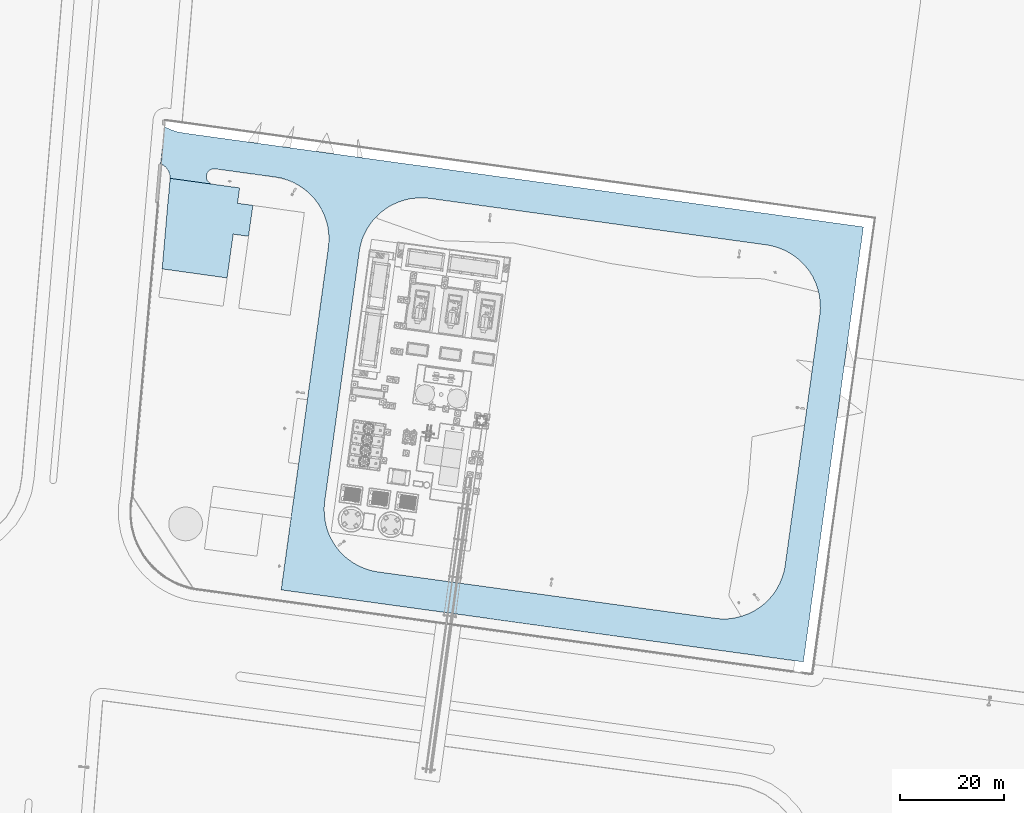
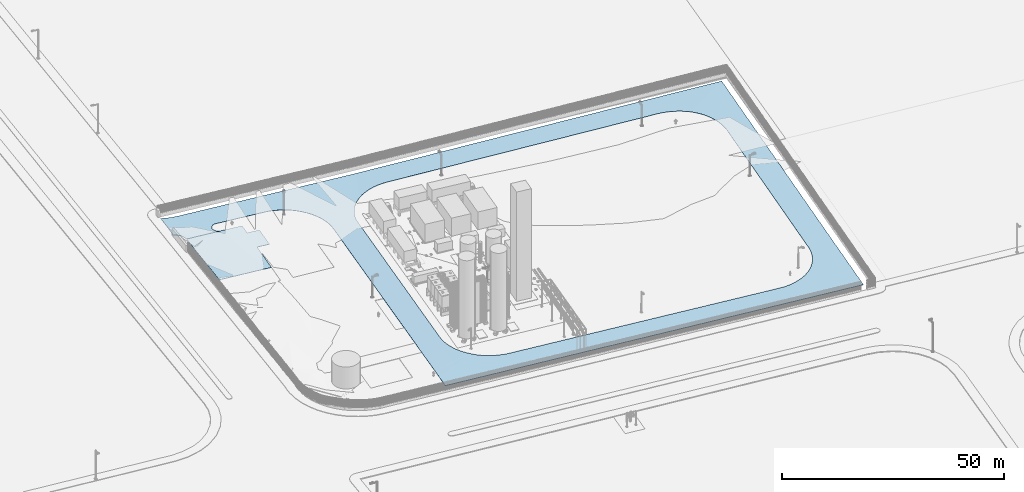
# Not in any storey, part 18 of 75: 2 slabs.
"""IFC4 model written with IfcOpenShell, lengths in metres."""

from ifc_helpers import new_model, si_unit, direction, origin_with_axes, place, context, subcontext, project, spatial, triangles, element, save


model = new_model("IFC4")

# Units and contexts
model_context = context("Model", 3, precision=1e-05, world=origin_with_axes(), true_north=direction((0.0, 1.0)))
body_context = subcontext(model_context, "Body", "Model", "MODEL_VIEW")
ifc_project = project(units=[si_unit("AREAUNIT", "SQUARE_METRE"), si_unit("VOLUMEUNIT", "CUBIC_METRE"), si_unit("LENGTHUNIT", "METRE")], contexts=[model_context])

# Site
site_placement = place(None, origin_with_axes())
site = spatial("IfcSite", under=ifc_project, at=site_placement, Name="Parcela industrial Jinhong")

# Slabs
slab_1_placement = place(site_placement, origin_with_axes())
element("IfcSlab", 1, at=slab_1_placement, inside=site, Name="Vial interior 01", ObjectType="Viales", PredefinedType="USERDEFINED", context=body_context, shape_type="Tessellation", body=[
    triangles([(1.718035, 107.487565, 0.60177), (0.356926, 107.079863, 0.6), (0.424991, 107.487947, 0.6), (0.493012, 108.03147, 0.594078), (82.84449, 96.008636, 1.718905), (91.049611, 88.800624, 1.93995), (73.210156, 97.3371, 1.50734), (51.491278, 94.284703, 1.071071), (67.048363, 98.188665, 1.372017), (69.6697, 97.813999, 1.429669), (134.999289, 88.78727, 2.857952), (116.344314, 85.32608, 2.495319), (95.440682, 94.271401, 1.995514), (123.016231, 82.095684, 2.657368), (134.523038, 85.320658, 2.814564), (134.488994, 85.082606, 2.811571), (134.420934, 84.70864, 2.806722), (124.651426, 80.190698, 2.657434), (134.284889, 83.62119, 2.793247), (134.182815, 82.90745, 2.784273), (125.297608, 79.104138, 2.651899), (134.08077, 82.091807, 2.774166), (133.808602, 80.18856, 2.750237), (126.217451, 76.791593, 2.635501), (133.502436, 77.9794, 2.722561), (133.162243, 75.566424, 2.692273), (119.958453, 23.806432, 1.982694), (125.677922, 21.357511, 2.013433), (119.754409, 22.583527, 1.967023), (119.37972, 21.358775, 1.949602), (125.541833, 20.201705, 1.999198), (125.371766, 19.080385, 1.985001), (118.324402, 19.081797, 1.913577), (125.235667, 18.026707, 1.971901), (125.09959, 17.075055, 1.959936), (117.609551, 18.028466, 1.894614), (124.793438, 14.764162, 1.931129), (124.691452, 14.220749, 1.92405), (124.657247, 13.811897, 1.919156), (124.589353, 13.506408, 1.91507), (108.96284, 13.341192, 1.754825), (123.432604, 5.043701, 1.809212), (107.670673, 13.307636, 1.741353), (33.999621, 26.517017, 1.141473), (23.412128, 22.611692, 0.963657), (23.446208, 22.986012, 0.962234), (34.850913, 25.59906, 1.139892), (22.901896, 18.907454, 0.87741), (23.514236, 23.461742, 0.961832), (32.603518, 28.590706, 1.115598), (23.820415, 25.602926, 0.960022), (24.092565, 27.506035, 0.958415), (31.377477, 32.125794, 1.066039), (24.534822, 30.904876, 0.951371), (31.207116, 33.383285, 1.053999), (25.045089, 34.643267, 0.938447), (31.172921, 34.642132, 1.044814), (25.249259, 35.90101, 0.934444), (63.243633, 13.321091, 1.266382), (106.410063, 13.443986, 1.730091), (48.972356, 94.353504, 1.017629), (51.728639, 100.300604, 1.035607), (50.23198, 94.38704, 1.043897), (46.860394, 100.947869, 0.928864), (48.188912, 94.251786, 1.001836), (47.745218, 94.217668, 0.992733), (43.083768, 92.35073, 0.907248), (42.91193, 92.179825, 0.904783), (42.094934, 91.568232, 0.891712), (32.087084, 86.473558, 0.758918), (38.180978, 85.282054, 0.851666), (32.087125, 86.133929, 0.760585), (31.27492, 35.899375, 1.038505), (30.929056, 91.572134, 0.721607), (40.42787, 89.870234, 0.868069), (31.20148, 91.061994, 0.727003), (41.176482, 90.719381, 0.878104), (30.01029, 93.270865, 0.703518), (30.180156, 92.99949, 0.706653), (29.805412, 93.509756, 0.701243), (29.499206, 93.91742, 0.700428), (29.294998, 94.222779, 0.699919), (29.226741, 94.257534, 0.69968), (29.157788, 94.360343, 0.699508), (8.902668, 99.531686, 0.623371), (8.766312, 99.294006, 0.622581), (8.630414, 99.123965, 0.621861), (8.528063, 98.716268, 0.621034), (8.494419, 98.676811, 0.620859), (9.343537, 97.119825, 0.622684), (9.82159, 96.98251, 0.624465), (6.928161, 97.391208, 0.6045), (1.515253, 98.140608, 0.564139), (1.480516, 98.720251, 0.566094), (1.345046, 99.125948, 0.566575), (1.310377, 99.297415, 0.566959), (1.208682, 99.534188, 0.567058), (1.038483, 99.806172, 0.566746), (1.036684, 99.842445, 0.566872), (0.222455, 100.689183, 0.563628), (-0.323346, 100.962197, 0.6), (0.356859, 106.841251, 0.6), (94.623541, 94.373622, 1.97764), (123.868208, 81.176927, 2.660465), (134.352954, 84.233239, 2.800745), (125.808883, 77.981252, 2.644592), (133.63848, 79.100836, 2.736414), (126.592231, 71.829362, 2.584104), (124.963484, 16.191234, 1.948726), (124.861454, 15.409834, 1.939), (23.616312, 24.073579, 0.961633), (23.718343, 24.787065, 0.96103), (31.650044, 30.902009, 1.080001), (31.883053, 84.060159, 0.768592), (45.328754, 93.50469, 0.946704), (46.521168, 93.912509, 0.969041), (8.970463, 97.391018, 0.620817), (2.977459, 107.07932, 0.607253), (88.802204, 95.157109, 1.849936), (117.570208, 85.087653, 2.522706), (118.903192, 20.203365, 1.93192), (116.792651, 17.077147, 1.875752), (40.296936, 22.607073, 1.161819), (41.522821, 22.368654, 1.171594), (24.398717, 29.715035, 0.955763), (37.942726, 84.058228, 0.854885), (8.665626, 97.762974, 0.619814), (0.663913, 100.316063, 0.565718), (4.306186, 106.840707, 0.61235), (62.460315, 13.457336, 1.25967), (32.058222, 29.713616, 1.096578), (31.985089, 84.875676, 0.765675), (8.528311, 98.1385, 0.620164), (24.228629, 28.593607, 0.957072), (38.078954, 84.874538, 0.852261), (65.346004, 98.393146, 1.334838), (33.249835, 27.503915, 1.1365), (38.521463, 86.471914, 0.850826), (32.052987, 87.390396, 0.754057), (9.276441, 99.803246, 0.62515), (32.018886, 87.629089, 0.752524), (9.720628, 99.973413, 0.627109), (38.895334, 87.388212, 0.852527), (10.196867, 99.973212, 0.629023), (35.803162, 24.783942, 1.140478), (31.916595, 88.648619, 0.746436), (21.668577, 98.406414, 0.673533), (36.858671, 24.069699, 1.143234), (39.03183, 87.626911, 0.853793), (22.895081, 98.20185, 0.678254), (37.947885, 23.457649, 1.147467), (31.882553, 88.750885, 0.745573), (39.105553, 22.981302, 1.153904), (39.576704, 88.6468, 0.858394), (31.644345, 89.769795, 0.738045), (66.851579, 18.8941, 1.389705), (31.303756, 90.721955, 0.729757), (30.656356, 92.184431, 0.715708), (110.22241, 13.510689, 1.769479), (41.516886, 91.059132, 0.882978), (111.448098, 13.816181, 1.785302), (112.640664, 14.224083, 1.801928), (113.796874, 14.766979, 1.819687), (114.853254, 15.413105, 1.837583), (124.589243, 13.302064, 1.912796), (115.873434, 16.19372, 1.856607), (28.375211, 95.175776, 0.697194), (27.421607, 96.025906, 0.694228), (44.172436, 92.995704, 0.925807), (26.367277, 96.739258, 0.690718), (25.278064, 97.351291, 0.686964), (132.822048, 73.051394, 2.660849), (24.119379, 97.827999, 0.682793), (126.694266, 73.053895, 2.598759), (126.660071, 74.311292, 2.612399), (126.523908, 75.567597, 2.624992), (118.761591, 84.713424, 2.55028), (119.919204, 84.237123, 2.57783), (121.041533, 83.625624, 2.605547), (122.063921, 82.910853, 2.631857), (1.718035, 107.487565, 0.70177), (0.356926, 107.079863, 0.7), (0.424991, 107.487947, 0.7), (0.493012, 108.03147, 0.694078), (82.84449, 96.008636, 1.818905), (91.049611, 88.800624, 2.03995), (73.210156, 97.3371, 1.60734), (51.491278, 94.284703, 1.171071), (67.048363, 98.188665, 1.472017), (69.6697, 97.813999, 1.529669), (134.999289, 88.78727, 2.957952), (116.344314, 85.32608, 2.595319), (95.440682, 94.271401, 2.095514), (123.016231, 82.095684, 2.757368), (134.523038, 85.320658, 2.914564), (134.488994, 85.082606, 2.911571), (134.420934, 84.70864, 2.906722), (124.651426, 80.190698, 2.757434), (134.284889, 83.62119, 2.893247), (134.182815, 82.90745, 2.884273), (125.297608, 79.104138, 2.751899), (134.08077, 82.091807, 2.874166), (133.808602, 80.18856, 2.850237), (126.217451, 76.791593, 2.735501), (133.502436, 77.9794, 2.822561), (133.162243, 75.566424, 2.792273), (119.958453, 23.806432, 2.082694), (125.677922, 21.357511, 2.113433), (119.754409, 22.583527, 2.067023), (119.37972, 21.358775, 2.049602), (125.541833, 20.201705, 2.099198), (125.371766, 19.080385, 2.085001), (118.324402, 19.081797, 2.013577), (125.235667, 18.026707, 2.071901), (125.09959, 17.075055, 2.059936), (117.609551, 18.028466, 1.994614), (124.793438, 14.764162, 2.031129), (124.691452, 14.220749, 2.02405), (124.657247, 13.811897, 2.019156), (124.589353, 13.506408, 2.01507), (108.96284, 13.341192, 1.854825), (123.432604, 5.043701, 1.909212), (107.670673, 13.307636, 1.841353), (33.999621, 26.517017, 1.241473), (23.412128, 22.611692, 1.063657), (23.446208, 22.986012, 1.062234), (34.850913, 25.59906, 1.239892), (22.901896, 18.907454, 0.97741), (23.514236, 23.461742, 1.061832), (32.603518, 28.590706, 1.215598), (23.820415, 25.602926, 1.060022), (24.092565, 27.506035, 1.058415), (31.377477, 32.125794, 1.166039), (24.534822, 30.904876, 1.051371), (31.207116, 33.383285, 1.153999), (25.045089, 34.643267, 1.038447), (31.172921, 34.642132, 1.144814), (25.249259, 35.90101, 1.034444), (63.243633, 13.321091, 1.366382), (106.410063, 13.443986, 1.830091), (48.972356, 94.353504, 1.117629), (51.728639, 100.300604, 1.135607), (50.23198, 94.38704, 1.143897), (46.860394, 100.947869, 1.028864), (48.188912, 94.251786, 1.101836), (47.745218, 94.217668, 1.092733), (43.083768, 92.35073, 1.007248), (42.91193, 92.179825, 1.004783), (42.094934, 91.568232, 0.991712), (32.087084, 86.473558, 0.858918), (38.180978, 85.282054, 0.951666), (32.087125, 86.133929, 0.860585), (31.27492, 35.899375, 1.138505), (30.929056, 91.572134, 0.821607), (40.42787, 89.870234, 0.968069), (31.20148, 91.061994, 0.827003), (41.176482, 90.719381, 0.978104), (30.01029, 93.270865, 0.803518), (30.180156, 92.99949, 0.806653), (29.805412, 93.509756, 0.801243), (29.499206, 93.91742, 0.800428), (29.294998, 94.222779, 0.799919), (29.226741, 94.257534, 0.79968), (29.157788, 94.360343, 0.799508), (8.902668, 99.531686, 0.723371), (8.766312, 99.294006, 0.722581), (8.630414, 99.123965, 0.721861), (8.528063, 98.716268, 0.721034), (8.494419, 98.676811, 0.720859), (9.343537, 97.119825, 0.722684), (9.82159, 96.98251, 0.724465), (6.928161, 97.391208, 0.7045), (1.515253, 98.140608, 0.664139), (1.480516, 98.720251, 0.666094), (1.345046, 99.125948, 0.666575), (1.310377, 99.297415, 0.666959), (1.208682, 99.534188, 0.667058), (1.038483, 99.806172, 0.666746), (1.036684, 99.842445, 0.666872), (0.222455, 100.689183, 0.663628), (-0.323346, 100.962197, 0.7), (0.356859, 106.841251, 0.7), (94.623541, 94.373622, 2.07764), (123.868208, 81.176927, 2.760465), (134.352954, 84.233239, 2.900745), (125.808883, 77.981252, 2.744592), (133.63848, 79.100836, 2.836414), (126.592231, 71.829362, 2.684104), (124.963484, 16.191234, 2.048726), (124.861454, 15.409834, 2.039), (23.616312, 24.073579, 1.061633), (23.718343, 24.787065, 1.06103), (31.650044, 30.902009, 1.180001), (31.883053, 84.060159, 0.868592), (45.328754, 93.50469, 1.046704), (46.521168, 93.912509, 1.069041), (8.970463, 97.391018, 0.720817), (2.977459, 107.07932, 0.707253), (88.802204, 95.157109, 1.949936), (117.570208, 85.087653, 2.622706), (118.903192, 20.203365, 2.03192), (116.792651, 17.077147, 1.975752), (40.296936, 22.607073, 1.261819), (41.522821, 22.368654, 1.271594), (24.398717, 29.715035, 1.055763), (37.942726, 84.058228, 0.954885), (8.665626, 97.762974, 0.719814), (0.663913, 100.316063, 0.665718), (4.306186, 106.840707, 0.71235), (62.460315, 13.457336, 1.35967), (32.058222, 29.713616, 1.196578), (31.985089, 84.875676, 0.865675), (8.528311, 98.1385, 0.720164), (24.228629, 28.593607, 1.057072), (38.078954, 84.874538, 0.952261), (65.346004, 98.393146, 1.434838), (33.249835, 27.503915, 1.2365), (38.521463, 86.471914, 0.950826), (32.052987, 87.390396, 0.854057), (9.276441, 99.803246, 0.72515), (32.018886, 87.629089, 0.852524), (9.720628, 99.973413, 0.727109), (38.895334, 87.388212, 0.952527), (10.196867, 99.973212, 0.729023), (35.803162, 24.783942, 1.240478), (31.916595, 88.648619, 0.846436), (21.668577, 98.406414, 0.773533), (36.858671, 24.069699, 1.243234), (39.03183, 87.626911, 0.953793), (22.895081, 98.20185, 0.778254), (37.947885, 23.457649, 1.247467), (31.882553, 88.750885, 0.845573), (39.105553, 22.981302, 1.253904), (39.576704, 88.6468, 0.958394), (31.644345, 89.769795, 0.838045), (66.851579, 18.8941, 1.489705), (31.303756, 90.721955, 0.829757), (30.656356, 92.184431, 0.815708), (110.22241, 13.510689, 1.869479), (41.516886, 91.059132, 0.982978), (111.448098, 13.816181, 1.885302), (112.640664, 14.224083, 1.901928), (113.796874, 14.766979, 1.919687), (114.853254, 15.413105, 1.937583), (124.589243, 13.302064, 2.012796), (115.873434, 16.19372, 1.956607), (28.375211, 95.175776, 0.797194), (27.421607, 96.025906, 0.794228), (44.172436, 92.995704, 1.025807), (26.367277, 96.739258, 0.790718), (25.278064, 97.351291, 0.786964), (132.822048, 73.051394, 2.760849), (24.119379, 97.827999, 0.782793), (126.694266, 73.053895, 2.698759), (126.660071, 74.311292, 2.712399), (126.523908, 75.567597, 2.724992), (118.761591, 84.713424, 2.65028), (119.919204, 84.237123, 2.67783), (121.041533, 83.625624, 2.705547), (122.063921, 82.910853, 2.731857)], [[1, 2, 3], [3, 4, 1], [5, 6, 7], [8, 9, 10], [11, 12, 13], [14, 11, 15], [14, 16, 17], [18, 19, 20], [21, 22, 23], [24, 25, 26], [27, 28, 29], [30, 31, 32], [33, 34, 35], [36, 37, 38], [38, 39, 40], [41, 42, 43], [44, 45, 46], [47, 48, 45], [44, 46, 49], [50, 51, 52], [53, 54, 55], [55, 56, 57], [56, 58, 57], [59, 60, 42], [61, 62, 63], [64, 65, 66], [67, 68, 69], [70, 71, 72], [73, 57, 58], [74, 75, 76], [75, 74, 77], [78, 69, 79], [69, 78, 67], [78, 80, 81], [82, 83, 84], [85, 86, 87], [87, 88, 89], [90, 91, 92], [92, 93, 94], [94, 95, 96], [97, 98, 99], [100, 101, 102], [2, 1, 102], [13, 6, 103], [16, 14, 15], [104, 17, 105], [106, 23, 107], [108, 28, 27], [33, 35, 109], [36, 110, 37], [44, 111, 112], [44, 49, 111], [113, 54, 53], [56, 55, 54], [114, 73, 58], [78, 81, 82], [115, 64, 116], [117, 90, 92], [92, 94, 96], [118, 100, 102], [102, 1, 118], [103, 6, 119], [11, 120, 12], [22, 21, 18], [34, 121, 32], [122, 38, 40], [48, 123, 124], [54, 113, 125], [73, 114, 126], [127, 117, 92], [87, 96, 97], [100, 118, 128], [128, 118, 129], [119, 6, 5], [36, 109, 110], [48, 124, 130], [131, 125, 113], [132, 126, 114], [133, 127, 92], [85, 99, 129], [128, 129, 99], [8, 7, 6], [30, 32, 121], [125, 131, 134], [126, 132, 135], [89, 133, 92], [99, 85, 97], [7, 8, 10], [134, 131, 52], [72, 135, 132], [87, 89, 92], [9, 8, 136], [50, 52, 131], [135, 72, 71], [96, 87, 92], [51, 50, 137], [71, 70, 138], [87, 97, 85], [51, 137, 112], [139, 138, 70], [140, 85, 129], [112, 137, 44], [141, 138, 139], [142, 140, 129], [45, 44, 47], [138, 141, 143], [144, 142, 129], [48, 47, 145], [146, 143, 141], [147, 144, 129], [48, 145, 148], [143, 146, 149], [150, 147, 129], [48, 148, 151], [152, 149, 146], [64, 150, 129], [48, 151, 153], [149, 152, 154], [62, 61, 64], [48, 153, 123], [155, 154, 152], [156, 130, 124], [157, 154, 155], [130, 156, 59], [154, 157, 75], [60, 59, 156], [76, 75, 157], [42, 60, 43], [158, 77, 74], [159, 42, 41], [77, 158, 160], [161, 42, 159], [79, 160, 158], [162, 42, 161], [160, 79, 69], [163, 42, 162], [82, 67, 78], [164, 42, 163], [64, 82, 84], [42, 164, 165], [82, 64, 67], [166, 165, 164], [64, 84, 167], [122, 165, 166], [64, 167, 168], [165, 122, 40], [67, 64, 169], [38, 122, 36], [169, 64, 115], [109, 36, 33], [64, 168, 170], [34, 33, 121], [64, 170, 171], [29, 31, 30], [116, 64, 66], [31, 29, 28], [65, 64, 61], [28, 108, 172], [64, 171, 173], [174, 172, 108], [150, 64, 173], [175, 172, 174], [63, 62, 8], [172, 175, 26], [136, 8, 62], [176, 26, 175], [6, 13, 12], [24, 26, 176], [11, 177, 120], [106, 25, 24], [11, 178, 177], [25, 106, 107], [11, 179, 178], [23, 106, 21], [11, 180, 179], [22, 18, 20], [11, 14, 180], [19, 18, 104], [17, 104, 14], [19, 104, 105], [183, 182, 181], [181, 184, 183], [187, 186, 185], [190, 189, 188], [193, 192, 191], [195, 191, 194], [197, 196, 194], [200, 199, 198], [203, 202, 201], [206, 205, 204], [209, 208, 207], [212, 211, 210], [215, 214, 213], [218, 217, 216], [220, 219, 218], [223, 222, 221], [226, 225, 224], [225, 228, 227], [229, 226, 224], [232, 231, 230], [235, 234, 233], [237, 236, 235], [237, 238, 236], [222, 240, 239], [243, 242, 241], [246, 245, 244], [249, 248, 247], [252, 251, 250], [238, 237, 253], [256, 255, 254], [257, 254, 255], [259, 249, 258], [247, 258, 249], [261, 260, 258], [264, 263, 262], [267, 266, 265], [269, 268, 267], [272, 271, 270], [274, 273, 272], [276, 275, 274], [279, 278, 277], [282, 281, 280], [282, 181, 182], [283, 186, 193], [195, 194, 196], [285, 197, 284], [287, 203, 286], [207, 208, 288], [289, 215, 213], [217, 290, 216], [292, 291, 224], [291, 229, 224], [233, 234, 293], [234, 235, 236], [238, 253, 294], [262, 261, 258], [296, 244, 295], [272, 270, 297], [276, 274, 272], [282, 280, 298], [298, 181, 282], [299, 186, 283], [192, 300, 191], [198, 201, 202], [212, 301, 214], [220, 218, 302], [304, 303, 228], [305, 293, 234], [306, 294, 253], [272, 297, 307], [277, 276, 267], [308, 298, 280], [309, 298, 308], [185, 186, 299], [290, 289, 216], [310, 304, 228], [293, 305, 311], [294, 306, 312], [272, 307, 313], [309, 279, 265], [279, 309, 308], [186, 187, 188], [301, 212, 210], [314, 311, 305], [315, 312, 306], [272, 313, 269], [277, 265, 279], [190, 188, 187], [232, 311, 314], [312, 315, 252], [272, 269, 267], [316, 188, 189], [311, 232, 230], [251, 252, 315], [272, 267, 276], [317, 230, 231], [318, 250, 251], [265, 277, 267], [292, 317, 231], [250, 318, 319], [309, 265, 320], [224, 317, 292], [319, 318, 321], [309, 320, 322], [227, 224, 225], [323, 321, 318], [309, 322, 324], [325, 227, 228], [321, 323, 326], [309, 324, 327], [328, 325, 228], [329, 326, 323], [309, 327, 330], [331, 328, 228], [326, 329, 332], [309, 330, 244], [333, 331, 228], [334, 332, 329], [244, 241, 242], [303, 333, 228], [332, 334, 335], [304, 310, 336], [335, 334, 337], [239, 336, 310], [255, 337, 334], [336, 239, 240], [337, 255, 256], [223, 240, 222], [254, 257, 338], [221, 222, 339], [340, 338, 257], [339, 222, 341], [338, 340, 259], [341, 222, 342], [249, 259, 340], [342, 222, 343], [258, 247, 262], [343, 222, 344], [264, 262, 244], [345, 344, 222], [247, 244, 262], [344, 345, 346], [347, 264, 244], [346, 345, 302], [348, 347, 244], [220, 302, 345], [349, 244, 247], [216, 302, 218], [295, 244, 349], [213, 216, 289], [350, 348, 244], [301, 213, 214], [351, 350, 244], [210, 211, 209], [246, 244, 296], [208, 209, 211], [241, 244, 245], [352, 288, 208], [353, 351, 244], [288, 352, 354], [353, 244, 330], [354, 352, 355], [188, 242, 243], [206, 355, 352], [242, 188, 316], [355, 206, 356], [192, 193, 186], [356, 206, 204], [300, 357, 191], [204, 205, 286], [357, 358, 191], [287, 286, 205], [358, 359, 191], [201, 286, 203], [359, 360, 191], [200, 198, 202], [360, 194, 191], [284, 198, 199], [194, 284, 197], [285, 284, 199], [182, 183, 2], [2, 183, 3], [184, 181, 4], [4, 181, 1], [183, 184, 3], [3, 184, 4], [187, 185, 7], [7, 185, 5], [186, 188, 6], [6, 188, 8], [190, 187, 10], [10, 187, 7], [189, 190, 9], [9, 190, 10], [192, 186, 12], [12, 186, 6], [193, 191, 13], [13, 191, 11], [191, 195, 11], [11, 195, 15], [195, 196, 15], [15, 196, 16], [196, 197, 16], [16, 197, 17], [199, 200, 19], [19, 200, 20], [201, 198, 21], [21, 198, 18], [200, 202, 20], [20, 202, 22], [202, 203, 22], [22, 203, 23], [205, 206, 25], [25, 206, 26], [209, 207, 29], [29, 207, 27], [210, 209, 30], [30, 209, 29], [208, 211, 28], [28, 211, 31], [211, 212, 31], [31, 212, 32], [212, 214, 32], [32, 214, 34], [214, 215, 34], [34, 215, 35], [216, 213, 36], [36, 213, 33], [217, 218, 37], [37, 218, 38], [218, 219, 38], [38, 219, 39], [219, 220, 39], [39, 220, 40], [223, 221, 43], [43, 221, 41], [225, 226, 45], [45, 226, 46], [224, 227, 44], [44, 227, 47], [228, 225, 48], [48, 225, 45], [226, 229, 46], [46, 229, 49], [231, 232, 51], [51, 232, 52], [235, 233, 55], [55, 233, 53], [234, 236, 54], [54, 236, 56], [237, 235, 57], [57, 235, 55], [236, 238, 56], [56, 238, 58], [222, 239, 42], [42, 239, 59], [240, 223, 60], [60, 223, 43], [188, 243, 8], [8, 243, 63], [243, 241, 63], [63, 241, 61], [244, 242, 64], [64, 242, 62], [241, 245, 61], [61, 245, 65], [245, 246, 65], [65, 246, 66], [247, 248, 67], [67, 248, 68], [248, 249, 68], [68, 249, 69], [252, 250, 72], [72, 250, 70], [253, 237, 73], [73, 237, 57], [256, 254, 76], [76, 254, 74], [257, 255, 77], [77, 255, 75], [259, 258, 79], [79, 258, 78], [258, 260, 78], [78, 260, 80], [260, 261, 80], [80, 261, 81], [261, 262, 81], [81, 262, 82], [262, 263, 82], [82, 263, 83], [263, 264, 83], [83, 264, 84], [265, 266, 85], [85, 266, 86], [266, 267, 86], [86, 267, 87], [267, 268, 87], [87, 268, 88], [268, 269, 88], [88, 269, 89], [270, 271, 90], [90, 271, 91], [271, 272, 91], [91, 272, 92], [272, 273, 92], [92, 273, 93], [273, 274, 93], [93, 274, 94], [274, 275, 94], [94, 275, 95], [275, 276, 95], [95, 276, 96], [276, 277, 96], [96, 277, 97], [277, 278, 97], [97, 278, 98], [278, 279, 98], [98, 279, 99], [280, 281, 100], [100, 281, 101], [282, 182, 102], [102, 182, 2], [281, 282, 101], [101, 282, 102], [283, 193, 103], [103, 193, 13], [284, 194, 104], [104, 194, 14], [198, 284, 18], [18, 284, 104], [197, 285, 17], [17, 285, 105], [285, 199, 105], [105, 199, 19], [286, 201, 106], [106, 201, 21], [204, 286, 24], [24, 286, 106], [203, 287, 23], [23, 287, 107], [287, 205, 107], [107, 205, 25], [207, 288, 27], [27, 288, 108], [215, 289, 35], [35, 289, 109], [290, 217, 110], [110, 217, 37], [289, 290, 109], [109, 290, 110], [229, 291, 49], [49, 291, 111], [292, 231, 112], [112, 231, 51], [291, 292, 111], [111, 292, 112], [233, 293, 53], [53, 293, 113], [238, 294, 58], [58, 294, 114], [246, 296, 66], [66, 296, 116], [296, 295, 116], [116, 295, 115], [297, 270, 117], [117, 270, 90], [181, 298, 1], [1, 298, 118], [185, 299, 5], [5, 299, 119], [299, 283, 119], [119, 283, 103], [300, 192, 120], [120, 192, 12], [301, 210, 121], [121, 210, 30], [213, 301, 33], [33, 301, 121], [302, 216, 122], [122, 216, 36], [303, 304, 123], [123, 304, 124], [305, 234, 125], [125, 234, 54], [306, 253, 126], [126, 253, 73], [307, 297, 127], [127, 297, 117], [279, 308, 99], [99, 308, 128], [308, 280, 128], [128, 280, 100], [309, 244, 129], [129, 244, 64], [298, 309, 118], [118, 309, 129], [310, 228, 130], [130, 228, 48], [239, 310, 59], [59, 310, 130], [311, 230, 131], [131, 230, 50], [293, 311, 113], [113, 311, 131], [312, 252, 132], [132, 252, 72], [294, 312, 114], [114, 312, 132], [269, 313, 89], [89, 313, 133], [313, 307, 133], [133, 307, 127], [232, 314, 52], [52, 314, 134], [314, 305, 134], [134, 305, 125], [251, 315, 71], [71, 315, 135], [315, 306, 135], [135, 306, 126], [316, 189, 136], [136, 189, 9], [242, 316, 62], [62, 316, 136], [317, 224, 137], [137, 224, 44], [230, 317, 50], [50, 317, 137], [318, 251, 138], [138, 251, 71], [250, 319, 70], [70, 319, 139], [320, 265, 140], [140, 265, 85], [319, 321, 139], [139, 321, 141], [322, 320, 142], [142, 320, 140], [323, 318, 143], [143, 318, 138], [324, 322, 144], [144, 322, 142], [227, 325, 47], [47, 325, 145], [321, 326, 141], [141, 326, 146], [327, 324, 147], [147, 324, 144], [325, 328, 145], [145, 328, 148], [329, 323, 149], [149, 323, 143], [330, 327, 150], [150, 327, 147], [328, 331, 148], [148, 331, 151], [326, 332, 146], [146, 332, 152], [333, 303, 153], [153, 303, 123], [331, 333, 151], [151, 333, 153], [255, 334, 75], [75, 334, 154], [334, 329, 154], [154, 329, 149], [332, 335, 152], [152, 335, 155], [336, 240, 156], [156, 240, 60], [304, 336, 124], [124, 336, 156], [337, 256, 157], [157, 256, 76], [335, 337, 155], [155, 337, 157], [254, 338, 74], [74, 338, 158], [338, 259, 158], [158, 259, 79], [221, 339, 41], [41, 339, 159], [249, 340, 69], [69, 340, 160], [340, 257, 160], [160, 257, 77], [339, 341, 159], [159, 341, 161], [341, 342, 161], [161, 342, 162], [342, 343, 162], [162, 343, 163], [343, 344, 163], [163, 344, 164], [220, 345, 40], [40, 345, 165], [345, 222, 165], [165, 222, 42], [346, 302, 166], [166, 302, 122], [344, 346, 164], [164, 346, 166], [264, 347, 84], [84, 347, 167], [347, 348, 167], [167, 348, 168], [349, 247, 169], [169, 247, 67], [295, 349, 115], [115, 349, 169], [348, 350, 168], [168, 350, 170], [350, 351, 170], [170, 351, 171], [206, 352, 26], [26, 352, 172], [352, 208, 172], [172, 208, 28], [353, 330, 173], [173, 330, 150], [351, 353, 171], [171, 353, 173], [288, 354, 108], [108, 354, 174], [354, 355, 174], [174, 355, 175], [356, 204, 176], [176, 204, 24], [355, 356, 175], [175, 356, 176], [357, 300, 177], [177, 300, 120], [358, 357, 178], [178, 357, 177], [359, 358, 179], [179, 358, 178], [194, 360, 14], [14, 360, 180], [360, 359, 180], [180, 359, 179]], closed=True),
])
slab_2_placement = place(site_placement, origin_with_axes())
element("IfcSlab", 2, at=slab_2_placement, inside=site, Name="Zona pavimentada 02", ObjectType="Pavimentos exteriores", PredefinedType="USERDEFINED", context=body_context, shape_type="Tessellation", body=[
    triangles([(14.49011, 93.347322, 0.639522), (1.073131, 93.348336, 0.542143), (1.345162, 96.032771, 0.554659), (14.894349, 96.301162, 0.644159), (1.345222, 96.305563, 0.55571), (1.515253, 98.14058, 0.564138), (17.447906, 92.935546, 0.65099), (16.66551, 87.396038, 0.642197), (16.631448, 86.987863, 0.641643), (13.681223, 87.395013, 0.619943), (13.601591, 86.988616, 0.617741), (12.478944, 78.967899, 0.577869), (-0.015032, 80.70509, 0.484737), (13.668801, 87.388394, 0.619818), (14.49011, 93.347322, 0.739522), (1.073131, 93.348336, 0.642143), (1.345162, 96.032771, 0.654659), (14.894349, 96.301162, 0.744159), (1.345222, 96.305563, 0.65571), (1.515253, 98.14058, 0.664138), (17.447906, 92.935546, 0.75099), (16.66551, 87.396038, 0.742197), (16.631448, 86.987863, 0.741643), (13.681223, 87.395013, 0.719943), (13.601591, 86.988616, 0.717741), (12.478944, 78.967899, 0.677869), (-0.015032, 80.70509, 0.584737), (13.668801, 87.388394, 0.719818)], [[1, 2, 3], [4, 5, 6], [3, 4, 1], [1, 7, 8], [8, 9, 10], [11, 12, 13], [4, 3, 5], [1, 8, 10], [2, 11, 13], [14, 2, 1], [1, 10, 14], [11, 2, 14], [17, 16, 15], [20, 19, 18], [15, 18, 17], [22, 21, 15], [24, 23, 22], [27, 26, 25], [19, 17, 18], [24, 22, 15], [27, 25, 16], [15, 16, 28], [28, 24, 15], [28, 16, 25], [16, 17, 2], [2, 17, 3], [18, 15, 4], [4, 15, 1], [17, 19, 3], [3, 19, 5], [20, 18, 6], [6, 18, 4], [19, 20, 5], [5, 20, 6], [15, 21, 1], [1, 21, 7], [21, 22, 7], [7, 22, 8], [22, 23, 8], [8, 23, 9], [23, 24, 9], [9, 24, 10], [25, 26, 11], [11, 26, 12], [27, 16, 13], [13, 16, 2], [26, 27, 12], [12, 27, 13], [24, 28, 10], [10, 28, 14], [28, 25, 14], [14, 25, 11]], closed=True),
])

save(model, "model.ifc")
